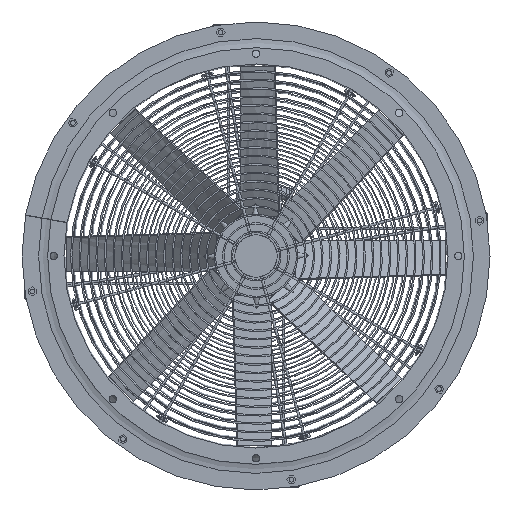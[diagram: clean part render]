
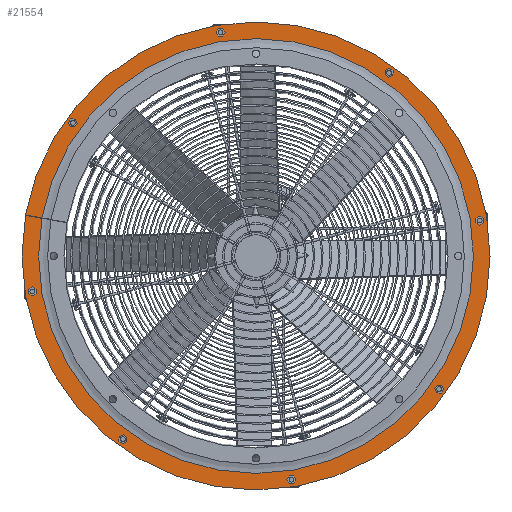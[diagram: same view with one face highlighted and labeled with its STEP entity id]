
A CAD part, left-side view. The second image highlights one B-rep face of the part: STEP entity #21554.
In plain terms, the highlighted planar face has unit normal (-1, 0, 0).
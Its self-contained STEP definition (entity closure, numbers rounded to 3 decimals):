
#115 = ORIENTED_EDGE ( 'NONE', *, *, #22724, .T. ) ;
#1089 = ORIENTED_EDGE ( 'NONE', *, *, #14331, .F. ) ;
#1627 = VERTEX_POINT ( 'NONE', #45799 ) ;
#1632 = DIRECTION ( 'NONE',  ( 0., 0., 1. ) ) ;
#2430 = CARTESIAN_POINT ( 'NONE',  ( 208., -303.381, -214.419 ) ) ;
#3035 = FACE_BOUND ( 'NONE', #21132, .T. ) ;
#4306 = EDGE_CURVE ( 'NONE', #9183, #9183, #22966, .T. ) ;
#4480 = CARTESIAN_POINT ( 'NONE',  ( 208., 58.663, 376.383 ) ) ;
#5045 = CARTESIAN_POINT ( 'NONE',  ( 208., -58.663, -364.383 ) ) ;
#5125 = AXIS2_PLACEMENT_3D ( 'NONE', #45075, #27798, #8605 ) ;
#5339 = ORIENTED_EDGE ( 'NONE', *, *, #23981, .F. ) ;
#6438 = CIRCLE ( 'NONE', #12563, 6. ) ;
#6679 = CARTESIAN_POINT ( 'NONE',  ( 208., 0., 0. ) ) ;
#6875 = DIRECTION ( 'NONE',  ( 0., 0., 1. ) ) ;
#7166 = AXIS2_PLACEMENT_3D ( 'NONE', #46274, #28746, #43374 ) ;
#7172 = DIRECTION ( 'NONE',  ( 1., 0., 0. ) ) ;
#7817 = CARTESIAN_POINT ( 'NONE',  ( 208., 381.495, 67.955 ) ) ;
#8605 = DIRECTION ( 'NONE',  ( 0., 0., 1. ) ) ;
#8857 = EDGE_LOOP ( 'NONE', ( #115 ) ) ;
#8983 = DIRECTION ( 'NONE',  ( 1., 0., 0. ) ) ;
#9183 = VERTEX_POINT ( 'NONE', #2430 ) ;
#10019 = FACE_OUTER_BOUND ( 'NONE', #33593, .T. ) ;
#10184 = CIRCLE ( 'NONE', #18639, 6. ) ;
#10306 = DIRECTION ( 'NONE',  ( 1., 0., 0. ) ) ;
#10865 = EDGE_LOOP ( 'NONE', ( #34932 ) ) ;
#11224 = DIRECTION ( 'NONE',  ( 1., 0., 0. ) ) ;
#11499 = EDGE_CURVE ( 'NONE', #36768, #36768, #43698, .T. ) ;
#11955 = CARTESIAN_POINT ( 'NONE',  ( 208., -58.663, -370.383 ) ) ;
#11960 = CARTESIAN_POINT ( 'NONE',  ( 208., 303.381, 220.419 ) ) ;
#12006 = CARTESIAN_POINT ( 'NONE',  ( 208., 370.383, -52.663 ) ) ;
#12014 = VERTEX_POINT ( 'NONE', #30040 ) ;
#12232 = CARTESIAN_POINT ( 'NONE',  ( 208., 381.613, 67.289 ) ) ;
#12563 = AXIS2_PLACEMENT_3D ( 'NONE', #11960, #30682, #1632 ) ;
#13865 = CIRCLE ( 'NONE', #44516, 360. ) ;
#14092 = FACE_BOUND ( 'NONE', #8857, .T. ) ;
#14331 = EDGE_CURVE ( 'NONE', #46345, #40027, #30809, .T. ) ;
#14625 = EDGE_LOOP ( 'NONE', ( #24608 ) ) ;
#14793 = DIRECTION ( 'NONE',  ( 1., 0., 0. ) ) ;
#15080 = CIRCLE ( 'NONE', #5125, 6. ) ;
#15344 = AXIS2_PLACEMENT_3D ( 'NONE', #46185, #8983, #42354 ) ;
#15358 = EDGE_CURVE ( 'NONE', #21333, #21333, #15080, .T. ) ;
#15446 = VECTOR ( 'NONE', #43915, 1000. ) ;
#15492 = ORIENTED_EDGE ( 'NONE', *, *, #38507, .T. ) ;
#16551 = VERTEX_POINT ( 'NONE', #5045 ) ;
#17018 = AXIS2_PLACEMENT_3D ( 'NONE', #31902, #10306, #17479 ) ;
#17021 = CIRCLE ( 'NONE', #30812, 6. ) ;
#17479 = DIRECTION ( 'NONE',  ( 0., 0., -1. ) ) ;
#18074 = CIRCLE ( 'NONE', #31899, 6. ) ;
#18639 = AXIS2_PLACEMENT_3D ( 'NONE', #47306, #32670, #26576 ) ;
#19401 = EDGE_CURVE ( 'NONE', #46345, #24318, #29270, .T. ) ;
#19914 = VERTEX_POINT ( 'NONE', #27155 ) ;
#21132 = EDGE_LOOP ( 'NONE', ( #27953 ) ) ;
#21271 = FACE_BOUND ( 'NONE', #10865, .T. ) ;
#21333 = VERTEX_POINT ( 'NONE', #40104 ) ;
#21554 = ADVANCED_FACE ( 'NONE', ( #31631, #42662, #3035, #35948, #10019, #35477, #21271, #31387, #14092 ), #46034, .T. ) ;
#22018 = DIRECTION ( 'NONE',  ( 0., 0., 1. ) ) ;
#22724 = EDGE_CURVE ( 'NONE', #1627, #1627, #6438, .T. ) ;
#22966 = CIRCLE ( 'NONE', #42135, 6. ) ;
#23001 = DIRECTION ( 'NONE',  ( 1., 0., 0. ) ) ;
#23981 = EDGE_CURVE ( 'NONE', #40027, #46836, #38693, .T. ) ;
#24318 = VERTEX_POINT ( 'NONE', #31156 ) ;
#24608 = ORIENTED_EDGE ( 'NONE', *, *, #38169, .T. ) ;
#26576 = DIRECTION ( 'NONE',  ( 0., 0., 1. ) ) ;
#27155 = CARTESIAN_POINT ( 'NONE',  ( 208., 220.419, -297.381 ) ) ;
#27328 = EDGE_LOOP ( 'NONE', ( #28487 ) ) ;
#27798 = DIRECTION ( 'NONE',  ( 1., 0., 0. ) ) ;
#27953 = ORIENTED_EDGE ( 'NONE', *, *, #41498, .T. ) ;
#28487 = ORIENTED_EDGE ( 'NONE', *, *, #47121, .T. ) ;
#28746 = DIRECTION ( 'NONE',  ( -1., 0., 0. ) ) ;
#29270 = LINE ( 'NONE', #40323, #15446 ) ;
#30040 = CARTESIAN_POINT ( 'NONE',  ( 208., -370.383, 64.663 ) ) ;
#30682 = DIRECTION ( 'NONE',  ( 1., 0., 0. ) ) ;
#30809 = CIRCLE ( 'NONE', #17018, 387.5 ) ;
#30812 = AXIS2_PLACEMENT_3D ( 'NONE', #11955, #23001, #37673 ) ;
#31156 = CARTESIAN_POINT ( 'NONE',  ( 208., 354.421, 63.132 ) ) ;
#31387 = FACE_BOUND ( 'NONE', #33558, .T. ) ;
#31445 = CIRCLE ( 'NONE', #32241, 6. ) ;
#31631 = FACE_BOUND ( 'NONE', #27328, .T. ) ;
#31899 = AXIS2_PLACEMENT_3D ( 'NONE', #36419, #14793, #6875 ) ;
#31902 = CARTESIAN_POINT ( 'NONE',  ( 208., 0., 0. ) ) ;
#31923 = CARTESIAN_POINT ( 'NONE',  ( 208., 354.531, 62.513 ) ) ;
#31945 = CARTESIAN_POINT ( 'NONE',  ( 208., -370.383, 58.663 ) ) ;
#32241 = AXIS2_PLACEMENT_3D ( 'NONE', #31945, #43464, #39891 ) ;
#32390 = DIRECTION ( 'NONE',  ( 0., 0., -1. ) ) ;
#32417 = EDGE_LOOP ( 'NONE', ( #43648 ) ) ;
#32670 = DIRECTION ( 'NONE',  ( 1., 0., 0. ) ) ;
#33558 = EDGE_LOOP ( 'NONE', ( #43161 ) ) ;
#33593 = EDGE_LOOP ( 'NONE', ( #1089, #44116, #15492, #5339 ) ) ;
#34932 = ORIENTED_EDGE ( 'NONE', *, *, #4306, .T. ) ;
#35477 = FACE_BOUND ( 'NONE', #44938, .T. ) ;
#35948 = FACE_BOUND ( 'NONE', #32417, .T. ) ;
#36071 = VECTOR ( 'NONE', #46569, 1000. ) ;
#36419 = CARTESIAN_POINT ( 'NONE',  ( 208., 58.663, 370.383 ) ) ;
#36768 = VERTEX_POINT ( 'NONE', #12006 ) ;
#37400 = VERTEX_POINT ( 'NONE', #4480 ) ;
#37673 = DIRECTION ( 'NONE',  ( 0., 0., 1. ) ) ;
#38169 = EDGE_CURVE ( 'NONE', #12014, #12014, #31445, .T. ) ;
#38507 = EDGE_CURVE ( 'NONE', #24318, #46836, #13865, .T. ) ;
#38693 = LINE ( 'NONE', #31923, #36071 ) ;
#39652 = ORIENTED_EDGE ( 'NONE', *, *, #42405, .T. ) ;
#39891 = DIRECTION ( 'NONE',  ( 0., 0., 1. ) ) ;
#40027 = VERTEX_POINT ( 'NONE', #12232 ) ;
#40104 = CARTESIAN_POINT ( 'NONE',  ( 208., -220.419, 309.381 ) ) ;
#40323 = CARTESIAN_POINT ( 'NONE',  ( 208., 354.421, 63.132 ) ) ;
#41498 = EDGE_CURVE ( 'NONE', #16551, #16551, #17021, .T. ) ;
#42135 = AXIS2_PLACEMENT_3D ( 'NONE', #43893, #11224, #22018 ) ;
#42354 = DIRECTION ( 'NONE',  ( 0., 0., 1. ) ) ;
#42405 = EDGE_CURVE ( 'NONE', #19914, #19914, #10184, .T. ) ;
#42662 = FACE_BOUND ( 'NONE', #14625, .T. ) ;
#43161 = ORIENTED_EDGE ( 'NONE', *, *, #15358, .T. ) ;
#43374 = DIRECTION ( 'NONE',  ( 0., 0., 1. ) ) ;
#43464 = DIRECTION ( 'NONE',  ( 1., 0., 0. ) ) ;
#43648 = ORIENTED_EDGE ( 'NONE', *, *, #11499, .T. ) ;
#43698 = CIRCLE ( 'NONE', #15344, 6. ) ;
#43893 = CARTESIAN_POINT ( 'NONE',  ( 208., -303.381, -220.419 ) ) ;
#43915 = DIRECTION ( 'NONE',  ( 0., -0.985, -0.175 ) ) ;
#44116 = ORIENTED_EDGE ( 'NONE', *, *, #19401, .T. ) ;
#44516 = AXIS2_PLACEMENT_3D ( 'NONE', #6679, #7172, #32390 ) ;
#44938 = EDGE_LOOP ( 'NONE', ( #39652 ) ) ;
#45075 = CARTESIAN_POINT ( 'NONE',  ( 208., -220.419, 303.381 ) ) ;
#45185 = CARTESIAN_POINT ( 'NONE',  ( 208., 354.531, 62.513 ) ) ;
#45799 = CARTESIAN_POINT ( 'NONE',  ( 208., 303.381, 226.419 ) ) ;
#46034 = PLANE ( 'NONE',  #7166 ) ;
#46185 = CARTESIAN_POINT ( 'NONE',  ( 208., 370.383, -58.663 ) ) ;
#46274 = CARTESIAN_POINT ( 'NONE',  ( 208., 354.421, 63.132 ) ) ;
#46345 = VERTEX_POINT ( 'NONE', #7817 ) ;
#46569 = DIRECTION ( 'NONE',  ( 0., -0.985, -0.174 ) ) ;
#46836 = VERTEX_POINT ( 'NONE', #45185 ) ;
#47121 = EDGE_CURVE ( 'NONE', #37400, #37400, #18074, .T. ) ;
#47306 = CARTESIAN_POINT ( 'NONE',  ( 208., 220.419, -303.381 ) ) ;
